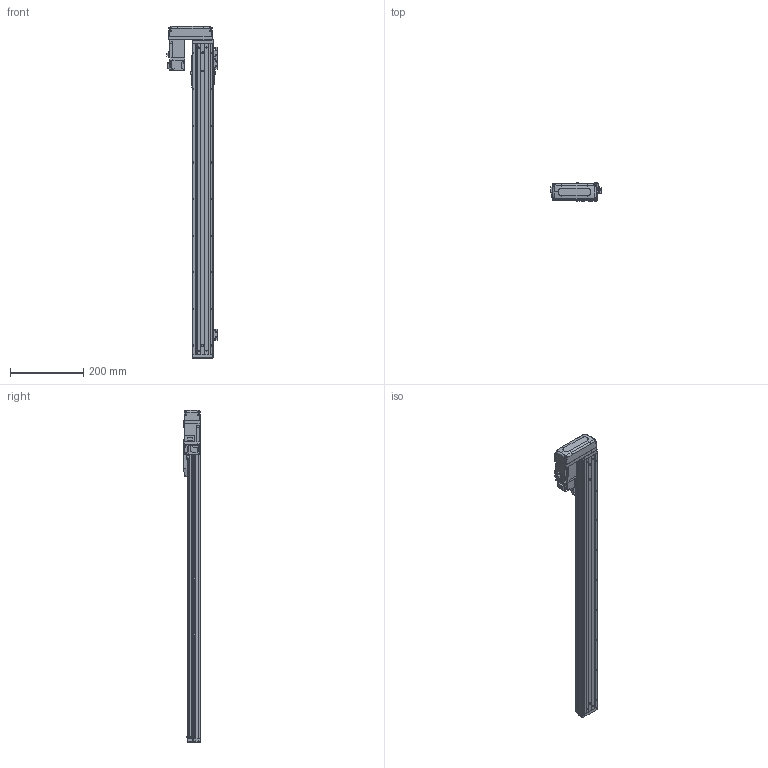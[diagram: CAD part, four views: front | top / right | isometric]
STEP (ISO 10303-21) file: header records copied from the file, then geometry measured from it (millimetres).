
FILE_DESCRIPTION (( 'STEP AP203' ), '1' );
FILE_NAME ('CTHA50-700-BR-M10-C4L.step', '2022-03-19T06:08:08', ( '微软用户' ), ( '微软中国' ), 'SwSTEP 2.0', 'SolidWorks 2020', '' );
FILE_SCHEMA (( 'CONFIG_CONTROL_DESIGN' ));
Length unit declared in the file: millimetre
Products named in the file (20): GBT 70.3-M3℅6; KTHA50-005; CTHA60-016; CTHA50-015-2_CTHA60-015-2; GB¨uT 70.2-M3¡Á6_M3¡Á6; CTHA60-021; CTHA60-033; EE_SX911P_R; HG-KR13（三菱）; GBT 70.1-M3×15; GBT77-2000 M3×3; CTHA50-002; CTHA50-700-BR-M10-C4L; GBT 70.1-M3℅6; CTHA50-030; KTHA50-001_850; CTHA60-017; CTHA50-031; KTHA50-004; GBT 70.1-M4×12
Assembly tree (60 placements, depth 2):
  CTHA50-700-BR-M10-C4L
    KTHA50-001_850
    KTHA50-004
    KTHA50-005
    GB¨uT 70.2-M3¡Á6_M3¡Á6  x10
    EE_SX911P_R  x3
    GBT77-2000 M3×3  x6
    GBT 70.1-M3℅6  x6
    CTHA60-017  x3
    GBT 70.1-M4×12  x10
    CTHA60-016  x2
    CTHA60-021  x2
    HG-KR13（三菱）
    CTHA50-002
    CTHA50-030  x2
    CTHA50-031
    GBT 70.3-M3℅6  x4
    CTHA50-015-2_CTHA60-015-2
    CTHA60-033
    GBT 70.1-M3×15  x4
Bounding box: 139.12 x 48 x 907 mm (x, y, z)
Volume: 1674311.2 mm3; surface area: 425405.9 mm2
Topology: 62 solids, 62 shells, 2573 faces, 6135 edges, 3762 vertices
Faces by surface type: plane 1458, cylinder 600, cone 357, torus 108, bspline 26, sphere 24
Entity records: 44623 total; most frequent: CARTESIAN_POINT 8219, DIRECTION 6975, ORIENTED_EDGE 6778, EDGE_CURVE 3389, VECTOR 2379, LINE 2379, AXIS2_PLACEMENT_3D 2298, VERTEX_POINT 2136
